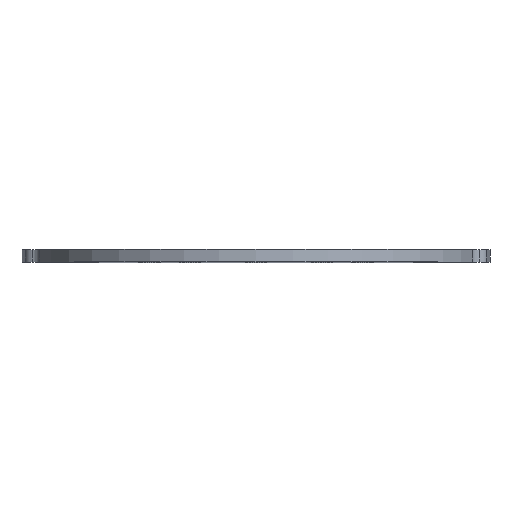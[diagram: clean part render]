
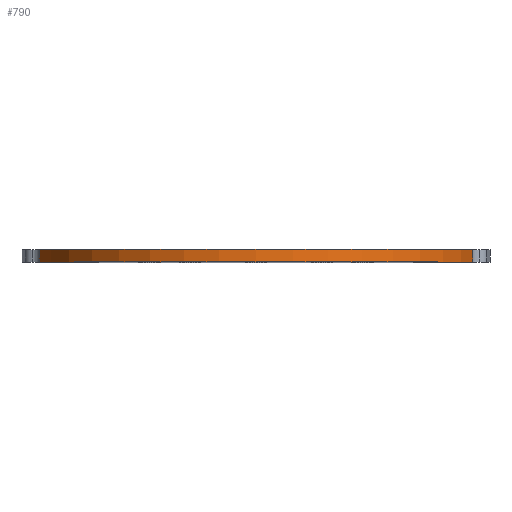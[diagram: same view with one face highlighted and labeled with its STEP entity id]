
A CAD part, top view. The second image highlights one B-rep face of the part: STEP entity #790.
In plain terms, the highlighted cylindrical face has radius 107.95 mm (diameter 215.9 mm), a partial arc.
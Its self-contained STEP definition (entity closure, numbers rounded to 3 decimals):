
#76 = AXIS2_PLACEMENT_3D ( 'NONE', #274, #1272, #1126 ) ;
#79 = EDGE_CURVE ( 'NONE', #588, #414, #1271, .T. ) ;
#91 = VECTOR ( 'NONE', #1429, 1000. ) ;
#126 = DIRECTION ( 'NONE',  ( 0., 1., 0. ) ) ;
#140 = ORIENTED_EDGE ( 'NONE', *, *, #978, .T. ) ;
#268 = DIRECTION ( 'NONE',  ( 0., -1., 0. ) ) ;
#274 = CARTESIAN_POINT ( 'NONE',  ( 0., 6., 0. ) ) ;
#275 = DIRECTION ( 'NONE',  ( 0., 0., -1. ) ) ;
#319 = CARTESIAN_POINT ( 'NONE',  ( 104.514, 6., 27.019 ) ) ;
#394 = CIRCLE ( 'NONE', #1388, 107.95 ) ;
#414 = VERTEX_POINT ( 'NONE', #319 ) ;
#502 = VECTOR ( 'NONE', #126, 1000. ) ;
#547 = AXIS2_PLACEMENT_3D ( 'NONE', #1526, #268, #275 ) ;
#574 = VERTEX_POINT ( 'NONE', #1480 ) ;
#588 = VERTEX_POINT ( 'NONE', #1596 ) ;
#711 = DIRECTION ( 'NONE',  ( 0., 1., 0. ) ) ;
#739 = CYLINDRICAL_SURFACE ( 'NONE', #547, 107.95 ) ;
#741 = EDGE_LOOP ( 'NONE', ( #140, #1766, #1569, #1119 ) ) ;
#790 = ADVANCED_FACE ( 'NONE', ( #1589 ), #739, .T. ) ;
#882 = LINE ( 'NONE', #1321, #91 ) ;
#975 = VERTEX_POINT ( 'NONE', #1708 ) ;
#978 = EDGE_CURVE ( 'NONE', #574, #588, #394, .T. ) ;
#979 = CARTESIAN_POINT ( 'NONE',  ( 104.514, 6., 27.019 ) ) ;
#980 = CARTESIAN_POINT ( 'NONE',  ( 0., 0., 0. ) ) ;
#1080 = EDGE_CURVE ( 'NONE', #975, #574, #882, .T. ) ;
#1119 = ORIENTED_EDGE ( 'NONE', *, *, #1080, .T. ) ;
#1126 = DIRECTION ( 'NONE',  ( 0., 0., -1. ) ) ;
#1271 = LINE ( 'NONE', #979, #502 ) ;
#1272 = DIRECTION ( 'NONE',  ( 0., 1., 0. ) ) ;
#1321 = CARTESIAN_POINT ( 'NONE',  ( -104.514, 6., 27.019 ) ) ;
#1327 = CIRCLE ( 'NONE', #76, 107.95 ) ;
#1388 = AXIS2_PLACEMENT_3D ( 'NONE', #980, #711, #1690 ) ;
#1427 = EDGE_CURVE ( 'NONE', #975, #414, #1327, .T. ) ;
#1429 = DIRECTION ( 'NONE',  ( 0., -1., 0. ) ) ;
#1480 = CARTESIAN_POINT ( 'NONE',  ( -104.514, 0., 27.019 ) ) ;
#1526 = CARTESIAN_POINT ( 'NONE',  ( 0., 6., 0. ) ) ;
#1569 = ORIENTED_EDGE ( 'NONE', *, *, #1427, .F. ) ;
#1589 = FACE_OUTER_BOUND ( 'NONE', #741, .T. ) ;
#1596 = CARTESIAN_POINT ( 'NONE',  ( 104.514, 0., 27.019 ) ) ;
#1690 = DIRECTION ( 'NONE',  ( 0., 0., -1. ) ) ;
#1708 = CARTESIAN_POINT ( 'NONE',  ( -104.514, 6., 27.019 ) ) ;
#1766 = ORIENTED_EDGE ( 'NONE', *, *, #79, .T. ) ;
